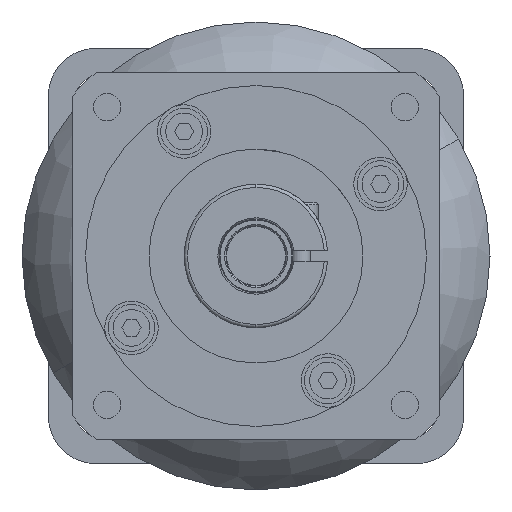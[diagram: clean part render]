
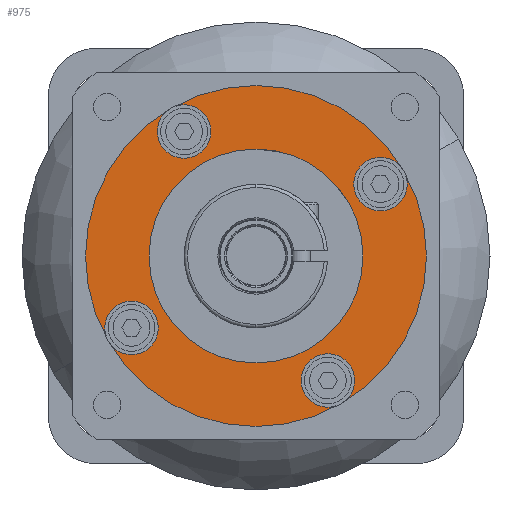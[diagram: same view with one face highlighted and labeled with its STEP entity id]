
A CAD part, left-side view. The second image highlights one B-rep face of the part: STEP entity #975.
In plain terms, the highlighted planar face has unit normal (-1, 0, 0).
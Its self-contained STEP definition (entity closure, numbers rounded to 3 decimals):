
#975=ADVANCED_FACE('',(#1992,#1993),#1994,.F.);
#1992=FACE_BOUND('',#3063,.T.);
#1993=FACE_OUTER_BOUND('',#3064,.T.);
#1994=PLANE('',#3065);
#3063=EDGE_LOOP('',(#5660,#5661));
#3064=EDGE_LOOP('',(#5662,#5663,#5664,#5665,#5666,#5667,#5668,#5669,#5670,#5671,#5672,#5673,#5674,#5675,#5676,#5677,#5678,#5679));
#3065=AXIS2_PLACEMENT_3D('',#5680,#5681,#5682);
#5660=ORIENTED_EDGE('',*,*,#6862,.T.);
#5661=ORIENTED_EDGE('',*,*,#7053,.T.);
#5662=ORIENTED_EDGE('',*,*,#7056,.F.);
#5663=ORIENTED_EDGE('',*,*,#7057,.F.);
#5664=ORIENTED_EDGE('',*,*,#6824,.F.);
#5665=ORIENTED_EDGE('',*,*,#7058,.F.);
#5666=ORIENTED_EDGE('',*,*,#7059,.F.);
#5667=ORIENTED_EDGE('',*,*,#7060,.F.);
#5668=ORIENTED_EDGE('',*,*,#6834,.F.);
#5669=ORIENTED_EDGE('',*,*,#7061,.F.);
#5670=ORIENTED_EDGE('',*,*,#7062,.F.);
#5671=ORIENTED_EDGE('',*,*,#6855,.F.);
#5672=ORIENTED_EDGE('',*,*,#6844,.F.);
#5673=ORIENTED_EDGE('',*,*,#7063,.F.);
#5674=ORIENTED_EDGE('',*,*,#6845,.F.);
#5675=ORIENTED_EDGE('',*,*,#6854,.F.);
#5676=ORIENTED_EDGE('',*,*,#6813,.F.);
#5677=ORIENTED_EDGE('',*,*,#7064,.F.);
#5678=ORIENTED_EDGE('',*,*,#6814,.F.);
#5679=ORIENTED_EDGE('',*,*,#6853,.F.);
#5680=CARTESIAN_POINT('',(-39.8,0.,0.));
#5681=DIRECTION('',(1.0,0.0,0.0));
#5682=DIRECTION('',(0.0,1.0,0.0));
#6813=EDGE_CURVE('',#8245,#8247,#8248,.T.);
#6814=EDGE_CURVE('',#8247,#8241,#8249,.T.);
#6824=EDGE_CURVE('',#8265,#8261,#8267,.T.);
#6834=EDGE_CURVE('',#8283,#8279,#8285,.T.);
#6844=EDGE_CURVE('',#8301,#8303,#8304,.T.);
#6845=EDGE_CURVE('',#8303,#8297,#8305,.T.);
#6853=EDGE_CURVE('',#8316,#8247,#8319,.T.);
#6854=EDGE_CURVE('',#8247,#8303,#8320,.T.);
#6855=EDGE_CURVE('',#8303,#8321,#8322,.T.);
#6862=EDGE_CURVE('',#8328,#8332,#8334,.T.);
#7053=EDGE_CURVE('',#8332,#8328,#8610,.T.);
#7056=EDGE_CURVE('',#8613,#8316,#8614,.T.);
#7057=EDGE_CURVE('',#8261,#8613,#8615,.T.);
#7058=EDGE_CURVE('',#8613,#8265,#8616,.T.);
#7059=EDGE_CURVE('',#8617,#8613,#8618,.T.);
#7060=EDGE_CURVE('',#8279,#8617,#8619,.T.);
#7061=EDGE_CURVE('',#8617,#8283,#8620,.T.);
#7062=EDGE_CURVE('',#8321,#8617,#8621,.T.);
#7063=EDGE_CURVE('',#8297,#8301,#8622,.T.);
#7064=EDGE_CURVE('',#8241,#8245,#8623,.T.);
#8241=VERTEX_POINT('',#10523);
#8245=VERTEX_POINT('',#10528);
#8247=VERTEX_POINT('',#10531);
#8248=CIRCLE('',#10532,4.0);
#8249=CIRCLE('',#10533,4.0);
#8261=VERTEX_POINT('',#10547);
#8265=VERTEX_POINT('',#10552);
#8267=CIRCLE('',#10555,4.0);
#8279=VERTEX_POINT('',#10569);
#8283=VERTEX_POINT('',#10574);
#8285=CIRCLE('',#10577,4.0);
#8297=VERTEX_POINT('',#10591);
#8301=VERTEX_POINT('',#10596);
#8303=VERTEX_POINT('',#10599);
#8304=CIRCLE('',#10600,4.0);
#8305=CIRCLE('',#10601,4.0);
#8316=VERTEX_POINT('',#10614);
#8319=CIRCLE('',#10618,25.5);
#8320=CIRCLE('',#10619,25.5);
#8321=VERTEX_POINT('',#10620);
#8322=CIRCLE('',#10621,25.5);
#8328=VERTEX_POINT('',#10628);
#8332=VERTEX_POINT('',#10633);
#8334=CIRCLE('',#10636,16.0);
#8610=CIRCLE('',#11069,16.0);
#8613=VERTEX_POINT('',#11072);
#8614=CIRCLE('',#11073,25.5);
#8615=CIRCLE('',#11074,4.0);
#8616=CIRCLE('',#11075,4.0);
#8617=VERTEX_POINT('',#11076);
#8618=CIRCLE('',#11077,25.5);
#8619=CIRCLE('',#11078,4.0);
#8620=CIRCLE('',#11079,4.0);
#8621=CIRCLE('',#11080,25.5);
#8622=CIRCLE('',#11081,4.0);
#8623=CIRCLE('',#11082,4.0);
#10523=CARTESIAN_POINT('',(-39.8,14.75,18.62));
#10528=CARTESIAN_POINT('',(-39.8,6.75,18.62));
#10531=CARTESIAN_POINT('',(-39.8,12.75,22.084));
#10532=AXIS2_PLACEMENT_3D('',#12508,#12509,#12510);
#10533=AXIS2_PLACEMENT_3D('',#12511,#12512,#12513);
#10547=CARTESIAN_POINT('',(-39.8,22.62,-10.75));
#10552=CARTESIAN_POINT('',(-39.8,14.62,-10.75));
#10555=AXIS2_PLACEMENT_3D('',#12527,#12528,#12529);
#10569=CARTESIAN_POINT('',(-39.8,-6.75,-18.62));
#10574=CARTESIAN_POINT('',(-39.8,-14.75,-18.62));
#10577=AXIS2_PLACEMENT_3D('',#12543,#12544,#12545);
#10591=CARTESIAN_POINT('',(-39.8,-14.62,10.75));
#10596=CARTESIAN_POINT('',(-39.8,-22.62,10.75));
#10599=CARTESIAN_POINT('',(-39.8,-22.084,12.75));
#10600=AXIS2_PLACEMENT_3D('',#12559,#12560,#12561);
#10601=AXIS2_PLACEMENT_3D('',#12562,#12563,#12564);
#10614=CARTESIAN_POINT('',(-39.8,25.5,0.));
#10618=AXIS2_PLACEMENT_3D('',#12574,#12575,#12576);
#10619=AXIS2_PLACEMENT_3D('',#12577,#12578,#12579);
#10620=CARTESIAN_POINT('',(-39.8,-25.5,0.));
#10621=AXIS2_PLACEMENT_3D('',#12580,#12581,#12582);
#10628=CARTESIAN_POINT('',(-39.8,16.,0.));
#10633=CARTESIAN_POINT('',(-39.8,-16.,0.));
#10636=AXIS2_PLACEMENT_3D('',#12592,#12593,#12594);
#11069=AXIS2_PLACEMENT_3D('',#12799,#12800,#12801);
#11072=CARTESIAN_POINT('',(-39.8,22.084,-12.75));
#11073=AXIS2_PLACEMENT_3D('',#12805,#12806,#12807);
#11074=AXIS2_PLACEMENT_3D('',#12808,#12809,#12810);
#11075=AXIS2_PLACEMENT_3D('',#12811,#12812,#12813);
#11076=CARTESIAN_POINT('',(-39.8,-12.75,-22.084));
#11077=AXIS2_PLACEMENT_3D('',#12814,#12815,#12816);
#11078=AXIS2_PLACEMENT_3D('',#12817,#12818,#12819);
#11079=AXIS2_PLACEMENT_3D('',#12820,#12821,#12822);
#11080=AXIS2_PLACEMENT_3D('',#12823,#12824,#12825);
#11081=AXIS2_PLACEMENT_3D('',#12826,#12827,#12828);
#11082=AXIS2_PLACEMENT_3D('',#12829,#12830,#12831);
#12508=CARTESIAN_POINT('',(-39.8,10.75,18.62));
#12509=DIRECTION('',(-1.0,0.0,0.0));
#12510=DIRECTION('',(0.0,1.0,0.0));
#12511=CARTESIAN_POINT('',(-39.8,10.75,18.62));
#12512=DIRECTION('',(-1.0,0.0,0.0));
#12513=DIRECTION('',(0.0,1.0,0.0));
#12527=CARTESIAN_POINT('',(-39.8,18.62,-10.75));
#12528=DIRECTION('',(-1.0,0.0,0.0));
#12529=DIRECTION('',(0.0,1.0,0.0));
#12543=CARTESIAN_POINT('',(-39.8,-10.75,-18.62));
#12544=DIRECTION('',(-1.0,0.0,0.0));
#12545=DIRECTION('',(0.0,1.0,0.0));
#12559=CARTESIAN_POINT('',(-39.8,-18.62,10.75));
#12560=DIRECTION('',(-1.0,0.0,0.0));
#12561=DIRECTION('',(0.0,1.0,0.0));
#12562=CARTESIAN_POINT('',(-39.8,-18.62,10.75));
#12563=DIRECTION('',(-1.0,0.0,0.0));
#12564=DIRECTION('',(0.0,1.0,0.0));
#12574=CARTESIAN_POINT('',(-39.8,0.,0.));
#12575=DIRECTION('',(1.0,0.0,0.0));
#12576=DIRECTION('',(0.0,1.0,0.0));
#12577=CARTESIAN_POINT('',(-39.8,0.,0.));
#12578=DIRECTION('',(1.0,0.0,0.0));
#12579=DIRECTION('',(0.0,1.0,0.0));
#12580=CARTESIAN_POINT('',(-39.8,0.,0.));
#12581=DIRECTION('',(1.0,0.0,0.0));
#12582=DIRECTION('',(0.0,1.0,0.0));
#12592=CARTESIAN_POINT('',(-39.8,0.,0.));
#12593=DIRECTION('',(1.0,0.0,0.0));
#12594=DIRECTION('',(0.0,1.0,0.0));
#12799=CARTESIAN_POINT('',(-39.8,0.,0.));
#12800=DIRECTION('',(1.0,0.0,0.0));
#12801=DIRECTION('',(0.0,1.0,0.0));
#12805=CARTESIAN_POINT('',(-39.8,0.,0.));
#12806=DIRECTION('',(1.0,0.0,0.0));
#12807=DIRECTION('',(0.0,1.0,0.0));
#12808=CARTESIAN_POINT('',(-39.8,18.62,-10.75));
#12809=DIRECTION('',(-1.0,0.0,0.0));
#12810=DIRECTION('',(0.0,1.0,0.0));
#12811=CARTESIAN_POINT('',(-39.8,18.62,-10.75));
#12812=DIRECTION('',(-1.0,0.0,0.0));
#12813=DIRECTION('',(0.0,1.0,0.0));
#12814=CARTESIAN_POINT('',(-39.8,0.,0.));
#12815=DIRECTION('',(1.0,0.0,0.0));
#12816=DIRECTION('',(0.0,1.0,0.0));
#12817=CARTESIAN_POINT('',(-39.8,-10.75,-18.62));
#12818=DIRECTION('',(-1.0,0.0,0.0));
#12819=DIRECTION('',(0.0,1.0,0.0));
#12820=CARTESIAN_POINT('',(-39.8,-10.75,-18.62));
#12821=DIRECTION('',(-1.0,0.0,0.0));
#12822=DIRECTION('',(0.0,1.0,0.0));
#12823=CARTESIAN_POINT('',(-39.8,0.,0.));
#12824=DIRECTION('',(1.0,0.0,0.0));
#12825=DIRECTION('',(0.0,1.0,0.0));
#12826=CARTESIAN_POINT('',(-39.8,-18.62,10.75));
#12827=DIRECTION('',(-1.0,0.0,0.0));
#12828=DIRECTION('',(0.0,1.0,0.0));
#12829=CARTESIAN_POINT('',(-39.8,10.75,18.62));
#12830=DIRECTION('',(-1.0,0.0,0.0));
#12831=DIRECTION('',(0.0,1.0,0.0));
